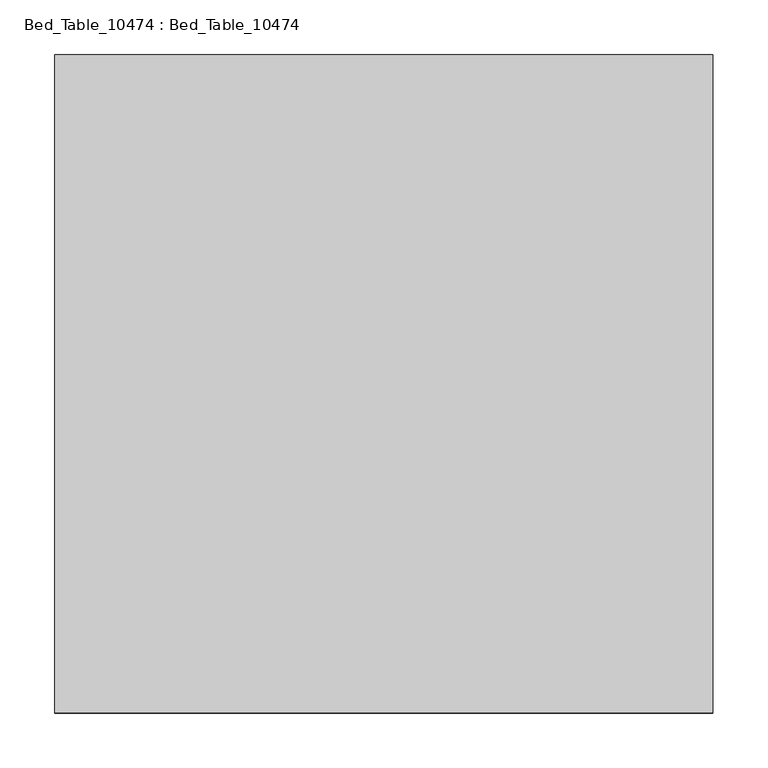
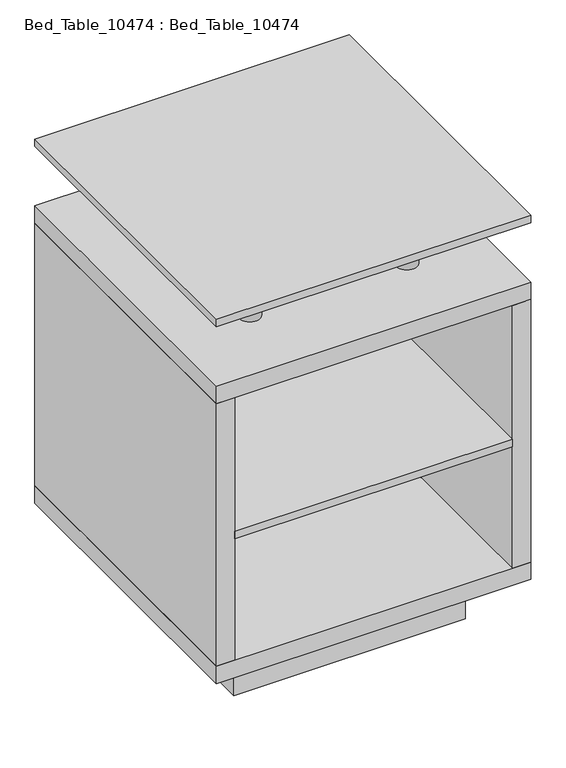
"""IFC4 building model written with IfcOpenShell, lengths in millimetres: furniture geometry, Bed_Table_10474 : Bed_Table_10474."""

from ifc_helpers import new_model, si_unit, point, frame, frame_2d, origin, origin_with_axes, place, context, project, spatial, polyline, circle_curve, trimmed, segment, composite_curve, outline, extrude, source, transform, mapped, element, save


def bed_table_10474_bed_table_10474_d9c024c5(model_context):
    return source(origin(), model_context, "Body", "SweptSolid", [
        extrude(outline(polyline([(-220.7106781, 220.7106781), (220.7106781, 220.7106781), (220.7106781, -220.7106781), (-220.7106781, -220.7106781), (-220.7106781, 220.7106781)]), holes=[polyline([(-210.7106781, 210.7106781), (-210.7106781, -210.7106781), (210.7106781, -210.7106781), (210.7106781, 210.7106781), (-210.7106781, 210.7106781)])]), origin_with_axes(), (0.0, 0.0, 1.0), 100.0),
        extrude(outline(composite_curve([segment(trimmed(circle_curve(frame_2d((150.0, -150.0)), 20.0), [point((130.0, -150.0))], [point((170.0, -150.0))], False, "CARTESIAN"), True, "CONTINUOUS"), segment(trimmed(circle_curve(frame_2d((150.0, -150.0)), 20.0), [point((170.0, -150.0))], [point((130.0, -150.0))], False, "CARTESIAN"), True, "CONTINUOUS")], self_intersect=False)), origin_with_axes(), (0.0, 0.0, 1.0), 100.0),
        extrude(outline(composite_curve([segment(trimmed(circle_curve(frame_2d((-150.0, -150.0)), 20.0), [point((-170.0, -150.0))], [point((-130.0, -150.0))], False, "CARTESIAN"), True, "CONTINUOUS"), segment(trimmed(circle_curve(frame_2d((-150.0, -150.0)), 20.0), [point((-130.0, -150.0))], [point((-170.0, -150.0))], False, "CARTESIAN"), True, "CONTINUOUS")], self_intersect=False)), origin_with_axes(), (0.0, 0.0, 1.0), 100.0),
        extrude(outline(composite_curve([segment(trimmed(circle_curve(frame_2d((150.0, 150.0)), 20.0), [point((130.0, 150.0))], [point((170.0, 150.0))], False, "CARTESIAN"), True, "CONTINUOUS"), segment(trimmed(circle_curve(frame_2d((150.0, 150.0)), 20.0), [point((170.0, 150.0))], [point((130.0, 150.0))], False, "CARTESIAN"), True, "CONTINUOUS")], self_intersect=False)), origin_with_axes(), (0.0, 0.0, 1.0), 100.0),
        extrude(outline(composite_curve([segment(trimmed(circle_curve(frame_2d((-150.0, 150.0)), 20.0), [point((-170.0, 150.0))], [point((-130.0, 150.0))], False, "CARTESIAN"), True, "CONTINUOUS"), segment(trimmed(circle_curve(frame_2d((-150.0, 150.0)), 20.0), [point((-130.0, 150.0))], [point((-170.0, 150.0))], False, "CARTESIAN"), True, "CONTINUOUS")], self_intersect=False)), origin_with_axes(), (0.0, 0.0, 1.0), 100.0),
        extrude(outline(polyline([(265.0, 300.0), (265.0, -300.0), (-265.0, -300.0), (-265.0, 300.0), (265.0, 300.0)])), frame((0.0, 0.0, 380.0), z_axis=(0.0, 0.0, 1.0), x_axis=(1.0, 0.0, 0.0)), (0.0, 0.0, 1.0), 15.0),
        extrude(outline(polyline([(300.0, 300.0), (300.0, -300.0), (-300.0, -300.0), (-300.0, 300.0), (300.0, 300.0)])), frame((0.0, 0.0, 820.0), z_axis=(0.0, 0.0, 1.0), x_axis=(1.0, 0.0, 0.0)), (0.0, 0.0, 1.0), 15.0),
        extrude(outline(composite_curve([segment(trimmed(circle_curve(frame_2d((150.0, -150.0)), 20.0), [point((130.0, -150.0))], [point((170.0, -150.0))], False, "CARTESIAN"), True, "CONTINUOUS"), segment(trimmed(circle_curve(frame_2d((150.0, -150.0)), 20.0), [point((170.0, -150.0))], [point((130.0, -150.0))], False, "CARTESIAN"), True, "CONTINUOUS")], self_intersect=False)), frame((0.0, 0.0, 700.0), z_axis=(0.0, 0.0, 1.0), x_axis=(1.0, 0.0, 0.0)), (0.0, 0.0, 1.0), 120.0),
        extrude(outline(composite_curve([segment(trimmed(circle_curve(frame_2d((-150.0, -150.0)), 20.0), [point((-170.0, -150.0))], [point((-130.0, -150.0))], False, "CARTESIAN"), True, "CONTINUOUS"), segment(trimmed(circle_curve(frame_2d((-150.0, -150.0)), 20.0), [point((-130.0, -150.0))], [point((-170.0, -150.0))], False, "CARTESIAN"), True, "CONTINUOUS")], self_intersect=False)), frame((0.0, 0.0, 700.0), z_axis=(0.0, 0.0, 1.0), x_axis=(1.0, 0.0, 0.0)), (0.0, 0.0, 1.0), 120.0),
        extrude(outline(composite_curve([segment(trimmed(circle_curve(frame_2d((150.0, 150.0)), 20.0), [point((130.0, 150.0))], [point((170.0, 150.0))], False, "CARTESIAN"), True, "CONTINUOUS"), segment(trimmed(circle_curve(frame_2d((150.0, 150.0)), 20.0), [point((170.0, 150.0))], [point((130.0, 150.0))], False, "CARTESIAN"), True, "CONTINUOUS")], self_intersect=False)), frame((0.0, 0.0, 700.0), z_axis=(0.0, 0.0, 1.0), x_axis=(1.0, 0.0, 0.0)), (0.0, 0.0, 1.0), 120.0),
        extrude(outline(composite_curve([segment(trimmed(circle_curve(frame_2d((-150.0, 150.0)), 20.0), [point((-170.0, 150.0))], [point((-130.0, 150.0))], False, "CARTESIAN"), True, "CONTINUOUS"), segment(trimmed(circle_curve(frame_2d((-150.0, 150.0)), 20.0), [point((-130.0, 150.0))], [point((-170.0, 150.0))], False, "CARTESIAN"), True, "CONTINUOUS")], self_intersect=False)), frame((0.0, 0.0, 700.0), z_axis=(0.0, 0.0, 1.0), x_axis=(1.0, 0.0, 0.0)), (0.0, 0.0, 1.0), 120.0),
        extrude(outline(polyline([(300.0, 300.0), (300.0, -300.0), (265.0, -300.0), (265.0, 300.0), (300.0, 300.0)])), frame((0.0, 0.0, 135.0), z_axis=(0.0, 0.0, 1.0), x_axis=(1.0, 0.0, 0.0)), (0.0, 0.0, 1.0), 530.0),
        extrude(outline(polyline([(300.0, 300.0), (300.0, -300.0), (-300.0, -300.0), (-300.0, 300.0), (300.0, 300.0)])), frame((0.0, 0.0, 665.0), z_axis=(0.0, 0.0, 1.0), x_axis=(1.0, 0.0, 0.0)), (0.0, 0.0, 1.0), 35.0),
        extrude(outline(polyline([(300.0, 300.0), (300.0, -300.0), (-300.0, -300.0), (-300.0, 300.0), (300.0, 300.0)])), frame((0.0, 0.0, 100.0), z_axis=(0.0, 0.0, 1.0), x_axis=(1.0, 0.0, 0.0)), (0.0, 0.0, 1.0), 35.0),
        extrude(outline(polyline([(-265.0, 300.0), (-265.0, -300.0), (-300.0, -300.0), (-300.0, 300.0), (-265.0, 300.0)])), frame((0.0, 0.0, 135.0), z_axis=(0.0, 0.0, 1.0), x_axis=(1.0, 0.0, 0.0)), (0.0, 0.0, 1.0), 530.0),
    ])


if __name__ == "__main__":
    model = new_model("IFC4")
    model_context = context("Model", 3, world=origin())
    ifc_project = project(units=[si_unit("LENGTHUNIT", "METRE", prefix="MILLI")], contexts=[model_context])
    site = spatial("IfcSite", under=ifc_project)
    building = spatial("IfcBuilding", under=site)
    placement = place(None, origin())
    bed_table_10474_bed_table_10474_shape = bed_table_10474_bed_table_10474_d9c024c5(model_context)
    element("IfcFurniture", 1, ObjectType="Bed_Table_10474 : Bed_Table_10474", at=placement, inside=building, context=model_context, shape_type="MappedRepresentation", body=[
        mapped(bed_table_10474_bed_table_10474_shape, transform((0.0, 0.0, 0.0), x_axis=(1.0, 0.0, 0.0), y_axis=(0.0, 1.0, 0.0), z_axis=(0.0, 0.0, 1.0))),
    ])
    save(model, "model.ifc")
